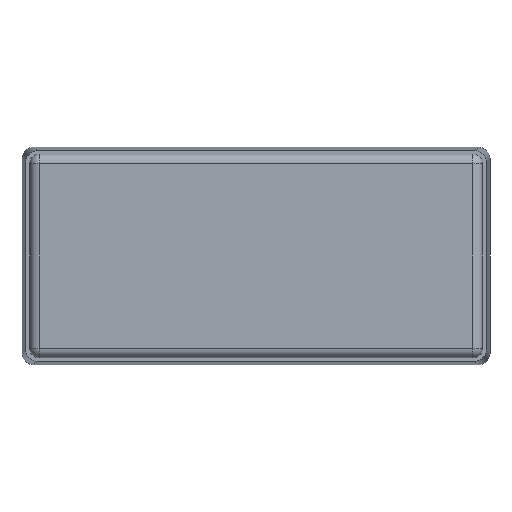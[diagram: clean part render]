
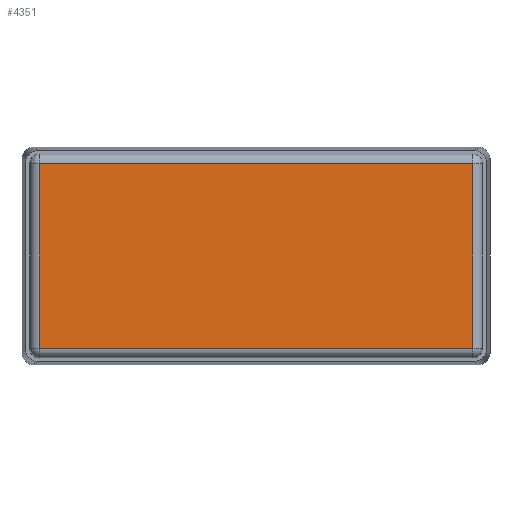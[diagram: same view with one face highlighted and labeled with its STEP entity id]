
A CAD part, front view. The second image highlights one B-rep face of the part: STEP entity #4351.
In plain terms, the highlighted planar face has unit normal (0, -1, 0).
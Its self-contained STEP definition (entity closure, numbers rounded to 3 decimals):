
#515 = CARTESIAN_POINT ( 'NONE',  ( 55.8, -38.5, 23.75 ) ) ;
#1306 = LINE ( 'NONE', #10512, #9545 ) ;
#1633 = PLANE ( 'NONE',  #13260 ) ;
#1795 = EDGE_CURVE ( 'NONE', #3000, #12500, #1306, .T. ) ;
#2065 = CARTESIAN_POINT ( 'NONE',  ( -55.8, -38.5, 23.75 ) ) ;
#2418 = VECTOR ( 'NONE', #3264, 1000. ) ;
#3000 = VERTEX_POINT ( 'NONE', #515 ) ;
#3195 = LINE ( 'NONE', #7687, #8365 ) ;
#3264 = DIRECTION ( 'NONE',  ( 0., 0., -1. ) ) ;
#3296 = DIRECTION ( 'NONE',  ( -1., 0., 0. ) ) ;
#3483 = ORIENTED_EDGE ( 'NONE', *, *, #11805, .T. ) ;
#3618 = CARTESIAN_POINT ( 'NONE',  ( 55.8, -38.5, -23.75 ) ) ;
#3719 = DIRECTION ( 'NONE',  ( 0., 1., 0. ) ) ;
#4351 = ADVANCED_FACE ( 'NONE', ( #11088 ), #1633, .F. ) ;
#4482 = ORIENTED_EDGE ( 'NONE', *, *, #12657, .T. ) ;
#6550 = ORIENTED_EDGE ( 'NONE', *, *, #1795, .T. ) ;
#6728 = CARTESIAN_POINT ( 'NONE',  ( -55.8, -38.5, -23.75 ) ) ;
#6937 = CARTESIAN_POINT ( 'NONE',  ( 55.8, -38.5, -23.75 ) ) ;
#7687 = CARTESIAN_POINT ( 'NONE',  ( 55.8, -38.5, 23.75 ) ) ;
#7844 = CARTESIAN_POINT ( 'NONE',  ( 0., -38.5, 0. ) ) ;
#8330 = LINE ( 'NONE', #6937, #11077 ) ;
#8365 = VECTOR ( 'NONE', #8729, 1000. ) ;
#8424 = CARTESIAN_POINT ( 'NONE',  ( -55.8, -38.5, -23.75 ) ) ;
#8729 = DIRECTION ( 'NONE',  ( 0., 0., 1. ) ) ;
#8993 = DIRECTION ( 'NONE',  ( 1., 0., 0. ) ) ;
#9312 = ORIENTED_EDGE ( 'NONE', *, *, #10985, .T. ) ;
#9545 = VECTOR ( 'NONE', #3296, 1000. ) ;
#10258 = EDGE_LOOP ( 'NONE', ( #9312, #4482, #6550, #3483 ) ) ;
#10512 = CARTESIAN_POINT ( 'NONE',  ( -55.8, -38.5, 23.75 ) ) ;
#10901 = VERTEX_POINT ( 'NONE', #3618 ) ;
#10933 = DIRECTION ( 'NONE',  ( 0., 0., 1. ) ) ;
#10985 = EDGE_CURVE ( 'NONE', #11377, #10901, #8330, .T. ) ;
#11077 = VECTOR ( 'NONE', #8993, 1000. ) ;
#11088 = FACE_OUTER_BOUND ( 'NONE', #10258, .T. ) ;
#11377 = VERTEX_POINT ( 'NONE', #6728 ) ;
#11805 = EDGE_CURVE ( 'NONE', #12500, #11377, #13103, .T. ) ;
#12500 = VERTEX_POINT ( 'NONE', #2065 ) ;
#12657 = EDGE_CURVE ( 'NONE', #10901, #3000, #3195, .T. ) ;
#13103 = LINE ( 'NONE', #8424, #2418 ) ;
#13260 = AXIS2_PLACEMENT_3D ( 'NONE', #7844, #3719, #10933 ) ;
